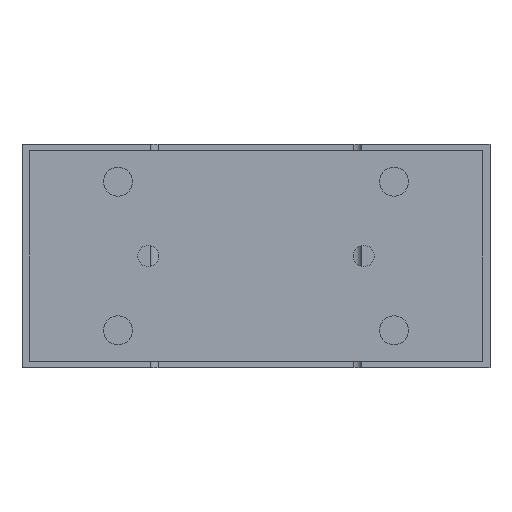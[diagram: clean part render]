
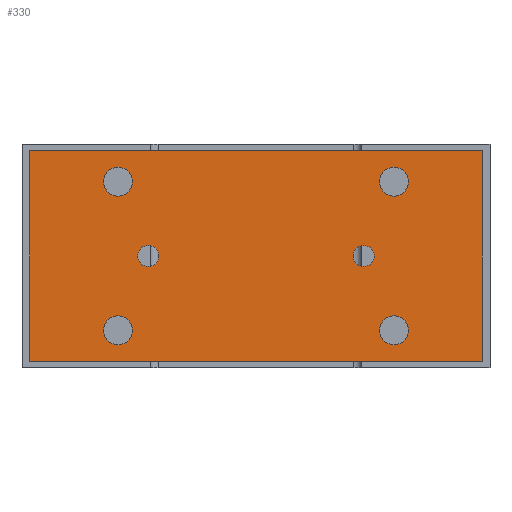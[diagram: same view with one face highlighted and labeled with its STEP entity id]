
A CAD part, left-side view. The second image highlights one B-rep face of the part: STEP entity #330.
In plain terms, the highlighted planar face has unit normal (-1, 0, 0).
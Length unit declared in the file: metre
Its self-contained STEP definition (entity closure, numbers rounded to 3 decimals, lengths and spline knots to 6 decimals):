
#330 = ADVANCED_FACE( '', ( #840, #841, #842, #843, #844, #845, #846 ), #847, .T. );
#840 = FACE_BOUND( '', #1640, .T. );
#841 = FACE_BOUND( '', #1641, .T. );
#842 = FACE_BOUND( '', #1642, .T. );
#843 = FACE_BOUND( '', #1643, .T. );
#844 = FACE_BOUND( '', #1644, .T. );
#845 = FACE_BOUND( '', #1645, .T. );
#846 = FACE_OUTER_BOUND( '', #1646, .T. );
#847 = PLANE( '', #1647 );
#1640 = EDGE_LOOP( '', ( #2597 ) );
#1641 = EDGE_LOOP( '', ( #2598 ) );
#1642 = EDGE_LOOP( '', ( #2599 ) );
#1643 = EDGE_LOOP( '', ( #2600 ) );
#1644 = EDGE_LOOP( '', ( #2601 ) );
#1645 = EDGE_LOOP( '', ( #2602 ) );
#1646 = EDGE_LOOP( '', ( #2603, #2604, #2605, #2606 ) );
#1647 = AXIS2_PLACEMENT_3D( '', #2607, #2608, #2609 );
#2597 = ORIENTED_EDGE( '', *, *, #3985, .F. );
#2598 = ORIENTED_EDGE( '', *, *, #3986, .F. );
#2599 = ORIENTED_EDGE( '', *, *, #3987, .F. );
#2600 = ORIENTED_EDGE( '', *, *, #3988, .F. );
#2601 = ORIENTED_EDGE( '', *, *, #3989, .F. );
#2602 = ORIENTED_EDGE( '', *, *, #3990, .T. );
#2603 = ORIENTED_EDGE( '', *, *, #3991, .T. );
#2604 = ORIENTED_EDGE( '', *, *, #3992, .T. );
#2605 = ORIENTED_EDGE( '', *, *, #3993, .T. );
#2606 = ORIENTED_EDGE( '', *, *, #3809, .T. );
#2607 = CARTESIAN_POINT( '', ( -0.118, -0.086, -0.0025 ) );
#2608 = DIRECTION( '', ( -1., 0., 0. ) );
#2609 = DIRECTION( '', ( 0., 0., 1. ) );
#3809 = EDGE_CURVE( '', #4375, #4373, #4376, .T. );
#3985 = EDGE_CURVE( '', #4672, #4672, #4673, .T. );
#3986 = EDGE_CURVE( '', #4674, #4674, #4675, .T. );
#3987 = EDGE_CURVE( '', #4676, #4676, #4677, .T. );
#3988 = EDGE_CURVE( '', #4678, #4678, #4679, .T. );
#3989 = EDGE_CURVE( '', #4680, #4680, #4681, .T. );
#3990 = EDGE_CURVE( '', #4682, #4682, #4683, .T. );
#3991 = EDGE_CURVE( '', #4373, #4684, #4685, .T. );
#3992 = EDGE_CURVE( '', #4684, #4686, #4687, .T. );
#3993 = EDGE_CURVE( '', #4686, #4375, #4688, .T. );
#4373 = VERTEX_POINT( '', #5205 );
#4375 = VERTEX_POINT( '', #5208 );
#4376 = LINE( '', #5209, #5210 );
#4672 = VERTEX_POINT( '', #5653 );
#4673 = CIRCLE( '', #5654, 0.0055 );
#4674 = VERTEX_POINT( '', #5655 );
#4675 = CIRCLE( '', #5656, 0.0055 );
#4676 = VERTEX_POINT( '', #5657 );
#4677 = CIRCLE( '', #5658, 0.0055 );
#4678 = VERTEX_POINT( '', #5659 );
#4679 = CIRCLE( '', #5660, 0.0055 );
#4680 = VERTEX_POINT( '', #5661 );
#4681 = CIRCLE( '', #5662, 0.004 );
#4682 = VERTEX_POINT( '', #5663 );
#4683 = CIRCLE( '', #5664, 0.004 );
#4684 = VERTEX_POINT( '', #5665 );
#4685 = LINE( '', #5666, #5667 );
#4686 = VERTEX_POINT( '', #5668 );
#4687 = LINE( '', #5669, #5670 );
#4688 = LINE( '', #5671, #5672 );
#5205 = CARTESIAN_POINT( '', ( -0.118, -0.086, -0.0825 ) );
#5208 = CARTESIAN_POINT( '', ( -0.118, 0.086, -0.0825 ) );
#5209 = CARTESIAN_POINT( '', ( -0.118, 0.086, -0.0825 ) );
#5210 = VECTOR( '', #6499, 1. );
#5653 = CARTESIAN_POINT( '', ( -0.118, -0.0525, -0.06525 ) );
#5654 = AXIS2_PLACEMENT_3D( '', #6725, #6726, #6727 );
#5655 = CARTESIAN_POINT( '', ( -0.118, 0.0525, -0.06525 ) );
#5656 = AXIS2_PLACEMENT_3D( '', #6728, #6729, #6730 );
#5657 = CARTESIAN_POINT( '', ( -0.118, -0.0525, -0.00875 ) );
#5658 = AXIS2_PLACEMENT_3D( '', #6731, #6732, #6733 );
#5659 = CARTESIAN_POINT( '', ( -0.118, 0.0525, -0.00875 ) );
#5660 = AXIS2_PLACEMENT_3D( '', #6734, #6735, #6736 );
#5661 = CARTESIAN_POINT( '', ( -0.118, -0.037, -0.0425 ) );
#5662 = AXIS2_PLACEMENT_3D( '', #6737, #6738, #6739 );
#5663 = CARTESIAN_POINT( '', ( -0.118, 0.037, -0.0425 ) );
#5664 = AXIS2_PLACEMENT_3D( '', #6740, #6741, #6742 );
#5665 = CARTESIAN_POINT( '', ( -0.118, -0.086, -0.0025 ) );
#5666 = CARTESIAN_POINT( '', ( -0.118, -0.086, -0.0825 ) );
#5667 = VECTOR( '', #6743, 1. );
#5668 = CARTESIAN_POINT( '', ( -0.118, 0.086, -0.0025 ) );
#5669 = CARTESIAN_POINT( '', ( -0.118, -0.086, -0.0025 ) );
#5670 = VECTOR( '', #6744, 1. );
#5671 = CARTESIAN_POINT( '', ( -0.118, 0.086, -0.0025 ) );
#5672 = VECTOR( '', #6745, 1. );
#6499 = DIRECTION( '', ( 0., -1., 0. ) );
#6725 = CARTESIAN_POINT( '', ( -0.118, -0.0525, -0.07075 ) );
#6726 = DIRECTION( '', ( -1., 0., 0. ) );
#6727 = DIRECTION( '', ( 0., 0., 1. ) );
#6728 = CARTESIAN_POINT( '', ( -0.118, 0.0525, -0.07075 ) );
#6729 = DIRECTION( '', ( -1., 0., 0. ) );
#6730 = DIRECTION( '', ( 0., 0., 1. ) );
#6731 = CARTESIAN_POINT( '', ( -0.118, -0.0525, -0.01425 ) );
#6732 = DIRECTION( '', ( -1., 0., 0. ) );
#6733 = DIRECTION( '', ( 0., 0., 1. ) );
#6734 = CARTESIAN_POINT( '', ( -0.118, 0.0525, -0.01425 ) );
#6735 = DIRECTION( '', ( -1., 0., 0. ) );
#6736 = DIRECTION( '', ( 0., 0., 1. ) );
#6737 = CARTESIAN_POINT( '', ( -0.118, -0.041, -0.0425 ) );
#6738 = DIRECTION( '', ( -1., 0., 0. ) );
#6739 = DIRECTION( '', ( 0., 1., 0. ) );
#6740 = CARTESIAN_POINT( '', ( -0.118, 0.041, -0.0425 ) );
#6741 = DIRECTION( '', ( 1., 0., 0. ) );
#6742 = DIRECTION( '', ( 0., -1., 0. ) );
#6743 = DIRECTION( '', ( 0., 0., 1. ) );
#6744 = DIRECTION( '', ( 0., 1., 0. ) );
#6745 = DIRECTION( '', ( 0., 0., -1. ) );
